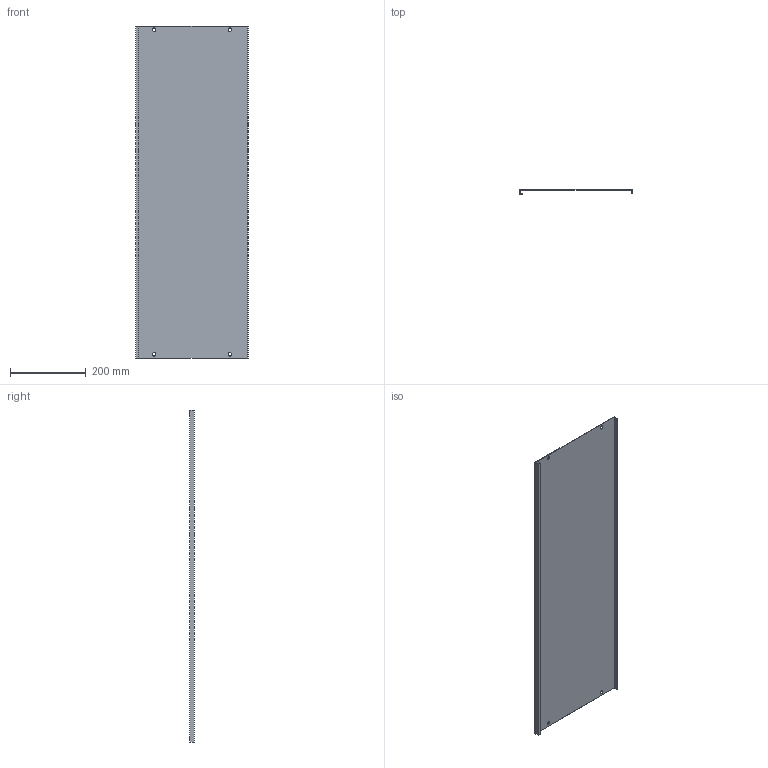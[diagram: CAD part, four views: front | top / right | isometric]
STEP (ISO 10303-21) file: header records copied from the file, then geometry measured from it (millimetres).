
FILE_DESCRIPTION (( 'STEP AP214' ), '1' );
FILE_NAME ('FO-00-PVS-030-100 Ïëàñòðîí ãëóõîé âíóòðåííèé 300õ1000.STEP', '2025-08-26T10:08:33', ( '' ), ( '' ), 'SwSTEP 2.0', 'SolidWorks 2023', '' );
FILE_SCHEMA (( 'AUTOMOTIVE_DESIGN' ));
Length unit declared in the file: millimetre
Products named in the file (1): FO-00-PVS-030-100 Пластрон глухой внутренний 300х1000
Bounding box: 298 x 12.5 x 879 mm (x, y, z)
Volume: 426837.1 mm3; surface area: 572893.1 mm2
Topology: 1 solids, 1 shells, 42 faces, 120 edges, 80 vertices
Faces by surface type: plane 30, cylinder 12
Entity records: 1407 total; most frequent: CARTESIAN_POINT 243, ORIENTED_EDGE 240, DIRECTION 230, EDGE_CURVE 120, LINE 96, VECTOR 96, VERTEX_POINT 80, AXIS2_PLACEMENT_3D 67
